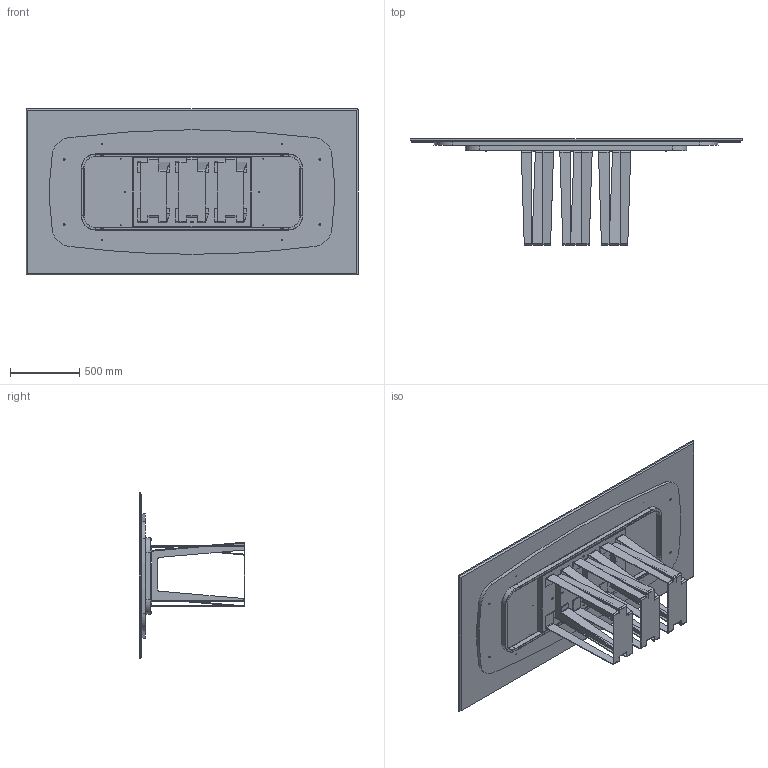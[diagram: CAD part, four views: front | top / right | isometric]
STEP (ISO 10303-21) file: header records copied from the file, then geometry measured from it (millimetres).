
FILE_DESCRIPTION (( 'STEP AP203' ), '1' );
FILE_NAME ('NA23M.STEP', '2024-08-07T14:41:13', ( '' ), ( '' ), 'SwSTEP 2.0', 'SolidWorks 2022', '' );
FILE_SCHEMA (( 'CONFIG_CONTROL_DESIGN' ));
Length unit declared in the file: millimetre
Products named in the file (9): TTAV01_02-01-VASSOIO IRRIGIDIMENTO TELAIO UNIVERSALE; TTAV01_01-01-TELAIO UNIVERSALE X TAVOLI 180 240cm_Default<A macchina>; M2XMXX-00-Piani rettangolari in marmo_2400x1200; TRUXXXXXX-00-NOBILITATO GR CON SUPP TRUCIOLARE SP. 25_TRU00007_2100x900; M8xXXmm_M8x55mm; NAB000000-00-NARCISO BASE SING. GREZZA; M2X-00-Piani rettangolari marmo_2400*1200; TTAV01-01-TELAIO UNIVERSALE X TAVOLI 180 240cm; NA23M
Assembly tree (19 placements, depth 3):
  NA23M
    M2XMXX-00-Piani rettangolari in marmo_2400x1200
      M2X-00-Piani rettangolari marmo_2400*1200
      TRUXXXXXX-00-NOBILITATO GR CON SUPP TRUCIOLARE SP. 25_TRU00007_2100x900
    TTAV01-01-TELAIO UNIVERSALE X TAVOLI 180 240cm
      TTAV01_01-01-TELAIO UNIVERSALE X TAVOLI 180 240cm_Default<A macchina>
      TTAV01_02-01-VASSOIO IRRIGIDIMENTO TELAIO UNIVERSALE
    NAB000000-00-NARCISO BASE SING. GREZZA  x3
    M8xXXmm_M8x55mm  x10
Bounding box: 2400 x 765 x 1200 mm (x, y, z)
Volume: 111862308 mm3; surface area: 14356656.4 mm2
Topology: 27 solids, 27 shells, 1182 faces, 2904 edges, 1747 vertices
Faces by surface type: plane 587, cylinder 325, cone 162, torus 72, bspline 36
Entity records: 20214 total; most frequent: CARTESIAN_POINT 3623, DIRECTION 3301, ORIENTED_EDGE 3116, EDGE_CURVE 1558, AXIS2_PLACEMENT_3D 1177, VERTEX_POINT 991, VECTOR 947, LINE 947
